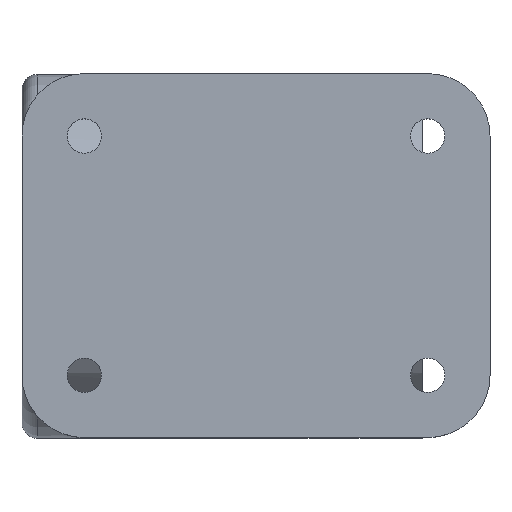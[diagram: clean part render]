
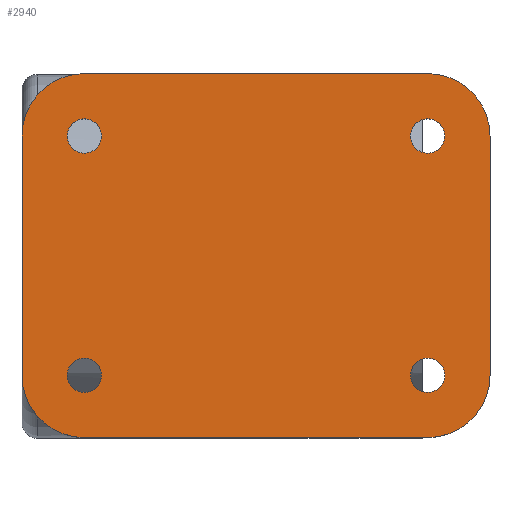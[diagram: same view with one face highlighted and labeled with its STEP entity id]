
A CAD part, top view. The second image highlights one B-rep face of the part: STEP entity #2940.
In plain terms, the highlighted planar face has unit normal (0, 0, 1).
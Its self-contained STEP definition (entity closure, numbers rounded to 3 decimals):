
#2012=CARTESIAN_POINT('',(12.,70.0,10.0));
#2013=VERTEX_POINT('',#2012);
#2020=CARTESIAN_POINT('',(78.0,70.0,10.0));
#2021=VERTEX_POINT('',#2020);
#2022=CARTESIAN_POINT('',(78.0,70.0,10.0));
#2023=DIRECTION('',(-1.0,0.0,0.0));
#2024=VECTOR('',#2023,66.0);
#2025=LINE('',#2022,#2024);
#2026=EDGE_CURVE('',#2021,#2013,#2025,.T.);
#2151=CARTESIAN_POINT('',(78.0,0.0,10.0));
#2152=VERTEX_POINT('',#2151);
#2159=CARTESIAN_POINT('',(12.,0.0,10.0));
#2160=VERTEX_POINT('',#2159);
#2161=CARTESIAN_POINT('',(12.,0.0,10.0));
#2162=DIRECTION('',(1.0,0.0,0.0));
#2163=VECTOR('',#2162,66.0);
#2164=LINE('',#2161,#2163);
#2165=EDGE_CURVE('',#2160,#2152,#2164,.T.);
#2659=CARTESIAN_POINT('',(81.3,58.0,10.0));
#2660=VERTEX_POINT('',#2659);
#2661=CARTESIAN_POINT('',(78.0,58.0,10.0));
#2662=DIRECTION('',(0.0,0.0,-1.0));
#2663=DIRECTION('',(-1.0,0.0,0.0));
#2664=AXIS2_PLACEMENT_3D('',#2661,#2662,#2663);
#2665=CIRCLE('',#2664,3.3);
#2666=EDGE_CURVE('',#2660,#2660,#2665,.T.);
#2719=CARTESIAN_POINT('',(15.3,12.,10.0));
#2720=VERTEX_POINT('',#2719);
#2721=CARTESIAN_POINT('',(12.,12.,10.0));
#2722=DIRECTION('',(0.0,0.0,-1.0));
#2723=DIRECTION('',(-1.0,0.0,0.0));
#2724=AXIS2_PLACEMENT_3D('',#2721,#2722,#2723);
#2725=CIRCLE('',#2724,3.3);
#2726=EDGE_CURVE('',#2720,#2720,#2725,.T.);
#2779=CARTESIAN_POINT('',(81.3,12.,10.0));
#2780=VERTEX_POINT('',#2779);
#2781=CARTESIAN_POINT('',(78.0,12.,10.0));
#2782=DIRECTION('',(0.0,0.0,-1.0));
#2783=DIRECTION('',(-1.0,0.0,0.0));
#2784=AXIS2_PLACEMENT_3D('',#2781,#2782,#2783);
#2785=CIRCLE('',#2784,3.3);
#2786=EDGE_CURVE('',#2780,#2780,#2785,.T.);
#2839=CARTESIAN_POINT('',(15.3,58.,10.0));
#2840=VERTEX_POINT('',#2839);
#2841=CARTESIAN_POINT('',(12.,58.,10.0));
#2842=DIRECTION('',(0.0,0.0,-1.0));
#2843=DIRECTION('',(-1.0,0.0,0.0));
#2844=AXIS2_PLACEMENT_3D('',#2841,#2842,#2843);
#2845=CIRCLE('',#2844,3.3);
#2846=EDGE_CURVE('',#2840,#2840,#2845,.T.);
#2860=CARTESIAN_POINT('',(90.0,12.,10.0));
#2861=VERTEX_POINT('',#2860);
#2868=CARTESIAN_POINT('',(78.0,12.,10.0));
#2869=DIRECTION('',(0.0,0.0,-1.0));
#2870=DIRECTION('',(0.707,-0.707,0.0));
#2871=AXIS2_PLACEMENT_3D('',#2868,#2869,#2870);
#2872=CIRCLE('',#2871,12.);
#2873=EDGE_CURVE('',#2861,#2152,#2872,.T.);
#2879=CARTESIAN_POINT('',(45.,35.,10.0));
#2880=DIRECTION('',(0.0,0.0,1.0));
#2881=DIRECTION('',(1.0,0.0,0.0));
#2882=AXIS2_PLACEMENT_3D('',#2879,#2880,#2881);
#2883=PLANE('',#2882);
#2884=ORIENTED_EDGE('',*,*,#2873,.F.);
#2885=CARTESIAN_POINT('',(90.0,58.0,10.0));
#2886=VERTEX_POINT('',#2885);
#2887=CARTESIAN_POINT('',(90.0,12.,10.0));
#2888=DIRECTION('',(0.0,1.0,0.0));
#2889=VECTOR('',#2888,46.0);
#2890=LINE('',#2887,#2889);
#2891=EDGE_CURVE('',#2861,#2886,#2890,.T.);
#2892=ORIENTED_EDGE('',*,*,#2891,.T.);
#2893=CARTESIAN_POINT('',(78.0,58.0,10.0));
#2894=DIRECTION('',(0.0,0.0,-1.0));
#2895=DIRECTION('',(0.707,0.707,0.0));
#2896=AXIS2_PLACEMENT_3D('',#2893,#2894,#2895);
#2897=CIRCLE('',#2896,12.);
#2898=EDGE_CURVE('',#2021,#2886,#2897,.T.);
#2899=ORIENTED_EDGE('',*,*,#2898,.F.);
#2900=ORIENTED_EDGE('',*,*,#2026,.T.);
#2901=CARTESIAN_POINT('',(0.0,58.,10.0));
#2902=VERTEX_POINT('',#2901);
#2903=CARTESIAN_POINT('',(12.,58.,10.0));
#2904=DIRECTION('',(0.0,0.0,-1.0));
#2905=DIRECTION('',(-0.707,0.707,0.0));
#2906=AXIS2_PLACEMENT_3D('',#2903,#2904,#2905);
#2907=CIRCLE('',#2906,12.0);
#2908=EDGE_CURVE('',#2902,#2013,#2907,.T.);
#2909=ORIENTED_EDGE('',*,*,#2908,.F.);
#2910=CARTESIAN_POINT('',(0.0,12.,10.0));
#2911=VERTEX_POINT('',#2910);
#2912=CARTESIAN_POINT('',(0.0,58.,10.0));
#2913=DIRECTION('',(0.0,-1.0,0.0));
#2914=VECTOR('',#2913,46.);
#2915=LINE('',#2912,#2914);
#2916=EDGE_CURVE('',#2902,#2911,#2915,.T.);
#2917=ORIENTED_EDGE('',*,*,#2916,.T.);
#2918=CARTESIAN_POINT('',(12.,12.,10.0));
#2919=DIRECTION('',(0.0,0.0,-1.0));
#2920=DIRECTION('',(-0.707,-0.707,0.0));
#2921=AXIS2_PLACEMENT_3D('',#2918,#2919,#2920);
#2922=CIRCLE('',#2921,12.);
#2923=EDGE_CURVE('',#2160,#2911,#2922,.T.);
#2924=ORIENTED_EDGE('',*,*,#2923,.F.);
#2925=ORIENTED_EDGE('',*,*,#2165,.T.);
#2926=EDGE_LOOP('',(#2884,#2892,#2899,#2900,#2909,#2917,#2924,#2925));
#2927=FACE_OUTER_BOUND('',#2926,.T.);
#2928=ORIENTED_EDGE('',*,*,#2666,.T.);
#2929=EDGE_LOOP('',(#2928));
#2930=FACE_BOUND('',#2929,.T.);
#2931=ORIENTED_EDGE('',*,*,#2726,.T.);
#2932=EDGE_LOOP('',(#2931));
#2933=FACE_BOUND('',#2932,.T.);
#2934=ORIENTED_EDGE('',*,*,#2786,.T.);
#2935=EDGE_LOOP('',(#2934));
#2936=FACE_BOUND('',#2935,.T.);
#2937=ORIENTED_EDGE('',*,*,#2846,.T.);
#2938=EDGE_LOOP('',(#2937));
#2939=FACE_BOUND('',#2938,.T.);
#2940=ADVANCED_FACE('',(#2927,#2930,#2933,#2936,#2939),#2883,.T.);
